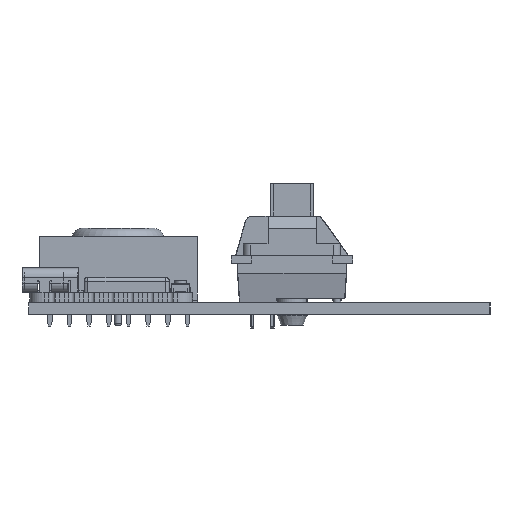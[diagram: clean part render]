
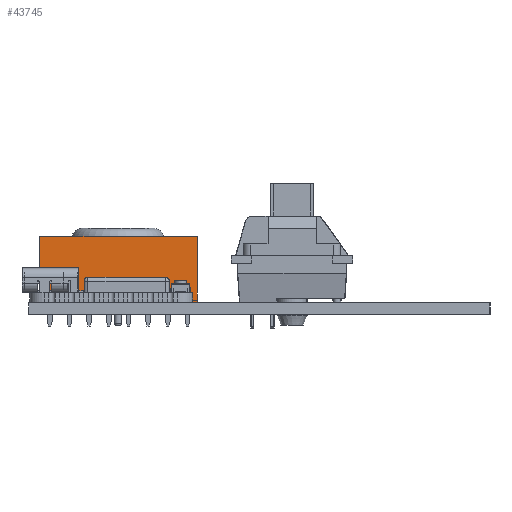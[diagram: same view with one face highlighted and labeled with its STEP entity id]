
A CAD part, left-side view. The second image highlights one B-rep face of the part: STEP entity #43745.
In plain terms, the highlighted planar face has unit normal (-1, 0, 0) as drawn and (1, 0, 0) by its records, which use the part's own axes.
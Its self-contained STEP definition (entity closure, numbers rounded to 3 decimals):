
#43745 = ADVANCED_FACE('',(#43746),#43780,.F.);
#43746 = FACE_BOUND('',#43747,.F.);
#43747 = EDGE_LOOP('',(#43748,#43758,#43766,#43774));
#43748 = ORIENTED_EDGE('',*,*,#43749,.T.);
#43749 = EDGE_CURVE('',#43750,#43752,#43754,.T.);
#43750 = VERTEX_POINT('',#43751);
#43751 = CARTESIAN_POINT('',(1.27,-19.05,0.));
#43752 = VERTEX_POINT('',#43753);
#43753 = CARTESIAN_POINT('',(1.27,-19.05,8.5));
#43754 = LINE('',#43755,#43756);
#43755 = CARTESIAN_POINT('',(1.27,-19.05,0.));
#43756 = VECTOR('',#43757,1.);
#43757 = DIRECTION('',(0.,0.,1.));
#43758 = ORIENTED_EDGE('',*,*,#43759,.T.);
#43759 = EDGE_CURVE('',#43752,#43760,#43762,.T.);
#43760 = VERTEX_POINT('',#43761);
#43761 = CARTESIAN_POINT('',(1.27,1.27,8.5));
#43762 = LINE('',#43763,#43764);
#43763 = CARTESIAN_POINT('',(1.27,-19.05,8.5));
#43764 = VECTOR('',#43765,1.);
#43765 = DIRECTION('',(0.,1.,0.));
#43766 = ORIENTED_EDGE('',*,*,#43767,.F.);
#43767 = EDGE_CURVE('',#43768,#43760,#43770,.T.);
#43768 = VERTEX_POINT('',#43769);
#43769 = CARTESIAN_POINT('',(1.27,1.27,0.));
#43770 = LINE('',#43771,#43772);
#43771 = CARTESIAN_POINT('',(1.27,1.27,0.));
#43772 = VECTOR('',#43773,1.);
#43773 = DIRECTION('',(0.,0.,1.));
#43774 = ORIENTED_EDGE('',*,*,#43775,.F.);
#43775 = EDGE_CURVE('',#43750,#43768,#43776,.T.);
#43776 = LINE('',#43777,#43778);
#43777 = CARTESIAN_POINT('',(1.27,-19.05,0.));
#43778 = VECTOR('',#43779,1.);
#43779 = DIRECTION('',(0.,1.,0.));
#43780 = PLANE('',#43781);
#43781 = AXIS2_PLACEMENT_3D('',#43782,#43783,#43784);
#43782 = CARTESIAN_POINT('',(1.27,-19.05,0.));
#43783 = DIRECTION('',(-1.,0.,0.));
#43784 = DIRECTION('',(0.,1.,0.));
